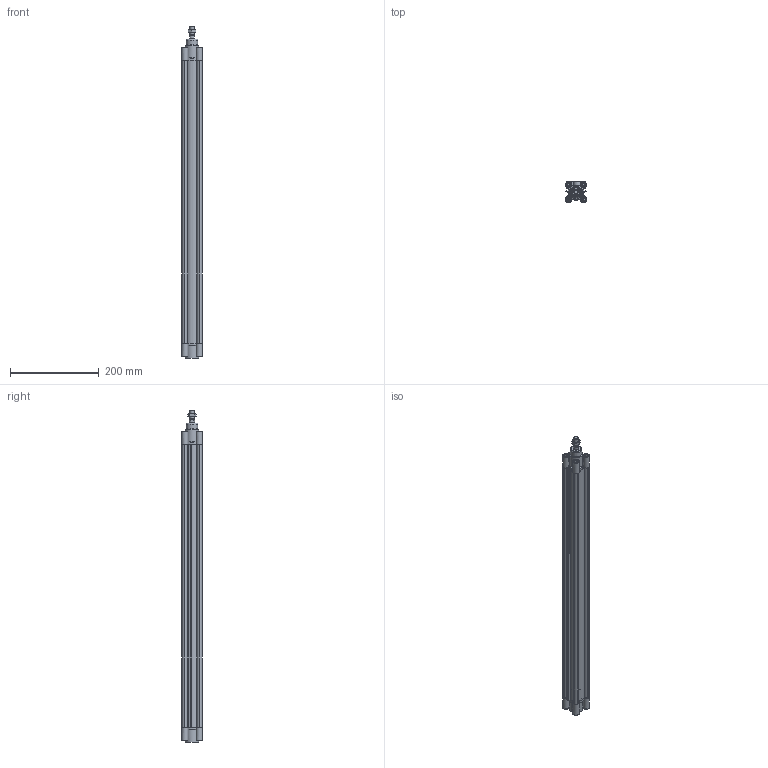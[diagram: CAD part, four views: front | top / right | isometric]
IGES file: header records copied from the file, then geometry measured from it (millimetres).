
Global section: file name: No Iges File Name specified; native system: Autodesk Inventor 2012; preprocessor: AutoDesk Inventor Iges Exporter R2012; author: pilonfr1; date: 20120128.095101; units: millimetre
Bounding box: 47 x 47 x 746.5 mm (x, y, z)
Volume: 554988.1 mm3; surface area: 361173.1 mm2
Topology: 5 solids, 5 shells, 316 faces, 788 edges, 522 vertices
Faces by surface type: plane 200, cylinder 54, revolution 39, cone 22, torus 1
Full cylindrical faces by diameter (mm): 8.8 x1, 10 x9, 11.5 x1, 12 x1, 26 x1, 30 x2, 32 x3
